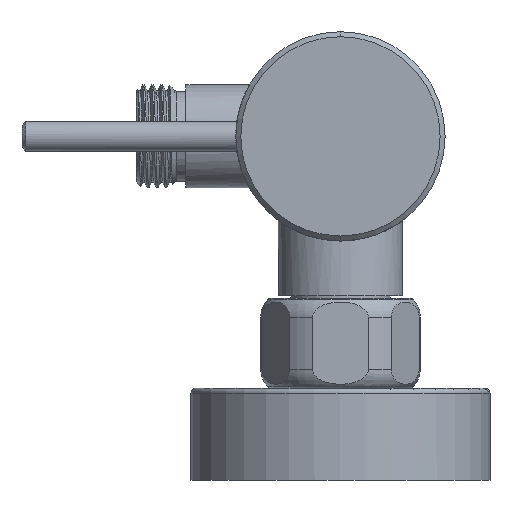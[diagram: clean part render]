
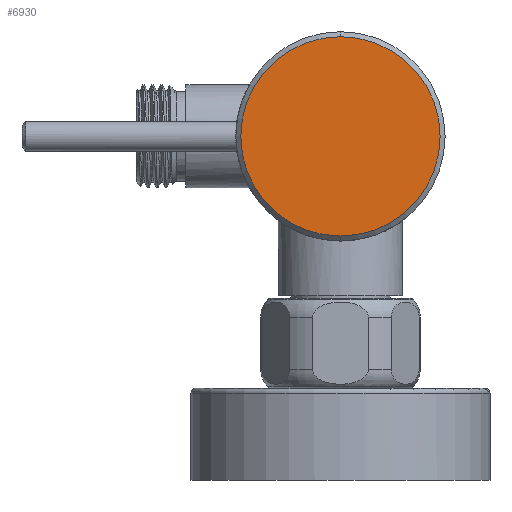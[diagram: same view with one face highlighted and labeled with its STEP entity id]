
A CAD part, front view. The second image highlights one B-rep face of the part: STEP entity #6930.
In plain terms, the highlighted planar face has unit normal (0, -1, 0).
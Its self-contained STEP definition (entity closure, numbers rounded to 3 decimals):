
#720=CARTESIAN_POINT('',(0.,-227.35,0.));
#721=DIRECTION('',(0.,-1.,0.));
#722=DIRECTION('',(0.,0.,-1.));
#723=AXIS2_PLACEMENT_3D('',#720,#721,#722);
#729=CARTESIAN_POINT('',(0.,-227.35,0.));
#730=DIRECTION('',(0.,-1.,0.));
#731=DIRECTION('',(0.,0.,1.));
#732=AXIS2_PLACEMENT_3D('',#729,#730,#731);
#6432=CARTESIAN_POINT('',(0.,-227.35,20.));
#6433=VERTEX_POINT('',#6432);
#6434=CARTESIAN_POINT('',(0.,-227.35,-20.));
#6435=VERTEX_POINT('',#6434);
#6920=CARTESIAN_POINT('',(0.,-227.35,0.));
#6921=DIRECTION('',(0.,-1.,0.));
#6922=DIRECTION('',(0.,0.,1.));
#6923=AXIS2_PLACEMENT_3D('',#6920,#6921,#6922);
#6924=PLANE('',#6923);
#6926=ORIENTED_EDGE('',*,*,#6925,.F.);
#6927=ORIENTED_EDGE('',*,*,#6910,.F.);
#6928=EDGE_LOOP('',(#6926,#6927));
#6929=FACE_OUTER_BOUND('',#6928,.F.);
#6930=ADVANCED_FACE('',(#6929),#6924,.T.);
#724=CIRCLE('',#723,20.);
#733=CIRCLE('',#732,20.);
#6910=EDGE_CURVE('',#6435,#6433,#724,.T.);
#6925=EDGE_CURVE('',#6433,#6435,#733,.T.);
